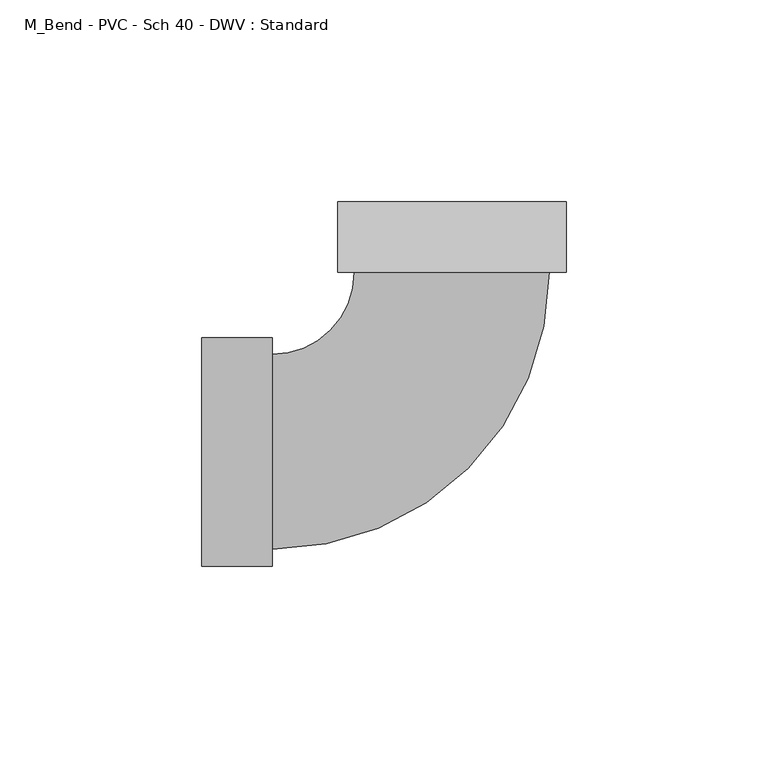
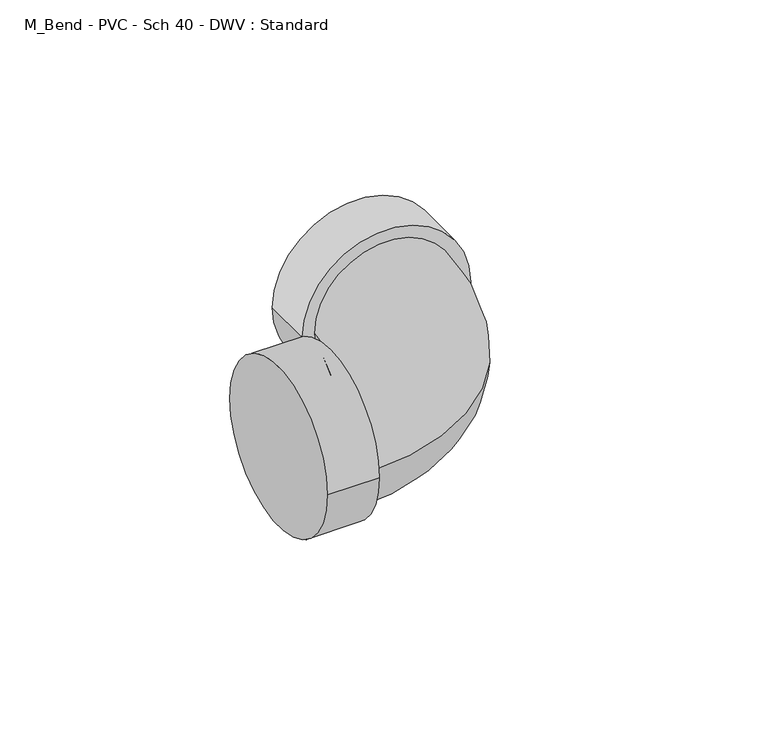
"""IFC4 building model written with IfcOpenShell, lengths in millimetres: pipe fitting geometry, M_Bend - PVC - Sch 40 - DWV : Standard."""

import ifcopenshell
import ifcopenshell.guid

model = None  # the IFC model being written
_history = None  # IfcOwnerHistory: only IFC2X3 demands one
_inside = {}  # id of a spatial element -> (the spatial element, [elements in it])
_under = {}  # id of a project, library or spatial element -> (it, [spatial elements below it])
_declared = {}  # id of a project -> (the project, [libraries it declares])
_typed = {}  # id of a type object -> (the type object, [elements of that type])
_made_of = {}  # id of a material, layer set ... -> (it, [elements and type objects made of it])


def new_model(schema):
    """Start an empty IFC model of exactly this schema.

    Asked for "IFC4X3", IfcOpenShell would pick the latest addendum, in which some entities
    have other attributes; the version numbers below select the first issue.
    IFC2X3 requires an IfcOwnerHistory on every rooted entity: one is made here for all.
    """
    global model, _history
    if schema == "IFC4X3":
        model = ifcopenshell.file(schema_version=(4, 3, 0, 0))
    else:
        model = ifcopenshell.file(schema=schema)
    _inside.clear()
    _under.clear()
    _declared.clear()
    _typed.clear()
    _made_of.clear()
    _history = None
    if model.schema == "IFC2X3":
        org = make("IfcOrganization", Name="unknown")
        user = make(
            "IfcPersonAndOrganization",
            ThePerson=make("IfcPerson", FamilyName="unknown"),
            TheOrganization=org,
        )
        app = make(
            "IfcApplication",
            ApplicationDeveloper=org,
            Version="unknown",
            ApplicationFullName="unknown",
            ApplicationIdentifier="unknown",
        )
        _history = make(
            "IfcOwnerHistory",
            OwningUser=user,
            OwningApplication=app,
            ChangeAction="ADDED",
            CreationDate=0,
        )
    return model


def make(cls, **values):
    """One entity of the class cls with the attributes given. An attribute that is None is left unset."""
    return model.create_entity(
        cls, **{name: value for name, value in values.items() if value is not None}
    )


def rooted(cls, **values):
    """An entity with a GlobalId (a new one), such as an element, a storey or a relation."""
    return make(cls, GlobalId=ifcopenshell.guid.new(), OwnerHistory=_history, **values)


def si_unit(unit_type, name, prefix=None):
    """IfcSIUnit, for example si_unit("LENGTHUNIT", "METRE", prefix="MILLI")."""
    return make("IfcSIUnit", UnitType=unit_type, Prefix=prefix, Name=name)


def assignment(units):
    """IfcUnitAssignment: the units of a project."""
    return None if units is None else make("IfcUnitAssignment", Units=units)


def point(xyz):
    """IfcCartesianPoint."""
    return None if xyz is None else make("IfcCartesianPoint", Coordinates=xyz)


def direction(xyz):
    """IfcDirection."""
    return None if xyz is None else make("IfcDirection", DirectionRatios=xyz)


def frame(location, z_axis=None, x_axis=None):
    """IfcAxis2Placement3D, a coordinate frame: its origin and axes. An axis left out is left unset."""
    return make(
        "IfcAxis2Placement3D",
        Location=point(location),
        Axis=direction(z_axis),
        RefDirection=direction(x_axis),
    )


def origin():
    """The frame at (0, 0, 0) with its axes left unset."""
    return frame((0.0, 0.0, 0.0))


def place(relative_to, where):
    """IfcLocalPlacement: puts the frame where relative to a parent placement (None: the world)."""
    return make(
        "IfcLocalPlacement", PlacementRelTo=relative_to, RelativePlacement=where
    )


def context(
    kind, dimensions, precision=None, world=None, true_north=None, identifier=None
):
    """IfcGeometricRepresentationContext, for example the 3D "Model" context."""
    return make(
        "IfcGeometricRepresentationContext",
        ContextIdentifier=identifier,
        ContextType=kind,
        CoordinateSpaceDimension=dimensions,
        Precision=precision,
        WorldCoordinateSystem=world,
        TrueNorth=true_north,
    )


def project(units=None, contexts=None):
    """IfcProject with its units and contexts."""
    return rooted(
        "IfcProject",
        Name="project",
        RepresentationContexts=contexts,
        UnitsInContext=assignment(units),
    )


def spatial(cls, under=None, at=None, **own):
    """A site, building, storey or space (cls), placed at a placement, below another one or the project."""
    s = rooted(cls, ObjectPlacement=at, **own)
    if under is not None:
        _under.setdefault(under.id(), (under, []))[1].append(s)
    return s


def circle_curve(where, radius):
    """IfcCircle in the frame where."""
    return make("IfcCircle", Position=where, Radius=radius)


def ellipse_curve(where, semi_axis1, semi_axis2):
    """IfcEllipse in the frame where."""
    return make(
        "IfcEllipse", Position=where, SemiAxis1=semi_axis1, SemiAxis2=semi_axis2
    )


def trimmed(basis, trim1, trim2, sense, master):
    """IfcTrimmedCurve: the piece of a basis curve between two trims."""
    return make(
        "IfcTrimmedCurve",
        BasisCurve=basis,
        Trim1=trim1,
        Trim2=trim2,
        SenseAgreement=sense,
        MasterRepresentation=master,
    )


def shape(context_of_items, identifier, shape_type, items):
    """IfcShapeRepresentation: the items that make up one representation, for example the "Body"."""
    return make(
        "IfcShapeRepresentation",
        ContextOfItems=context_of_items,
        RepresentationIdentifier=identifier,
        RepresentationType=shape_type,
        Items=items,
    )


def source(mapping_origin, context_of_items, identifier, shape_type, items):
    """IfcRepresentationMap: a shape defined once, which mapped items show again and again."""
    return make(
        "IfcRepresentationMap",
        MappingOrigin=mapping_origin,
        MappedRepresentation=shape(context_of_items, identifier, shape_type, items),
    )


def transform(
    local_origin,
    x_axis=None,
    y_axis=None,
    z_axis=None,
    scale=None,
    scale2=None,
    scale3=None,
    uniform=True,
):
    """IfcCartesianTransformationOperator3D, or its non-uniform kind. x_axis, y_axis, z_axis: its Axis1, 2, 3."""
    if uniform:
        return make(
            "IfcCartesianTransformationOperator3D",
            Axis1=direction(x_axis),
            Axis2=direction(y_axis),
            LocalOrigin=point(local_origin),
            Scale=scale,
            Axis3=direction(z_axis),
        )
    return make(
        "IfcCartesianTransformationOperator3DnonUniform",
        Axis1=direction(x_axis),
        Axis2=direction(y_axis),
        LocalOrigin=point(local_origin),
        Scale=scale,
        Axis3=direction(z_axis),
        Scale2=scale2,
        Scale3=scale3,
    )


def mapped(mapping_source, mapping_target):
    """IfcMappedItem: shows the shape of a source again, moved by a transform."""
    return make(
        "IfcMappedItem", MappingSource=mapping_source, MappingTarget=mapping_target
    )


def made_of(thing, what):
    """Note that an element or type object is made of a material, layer set ...; save() writes the relation."""
    if what is not None:
        _made_of.setdefault(what.id(), (what, []))[1].append(thing)
    return thing


def element(
    cls,
    number,
    at=None,
    inside=None,
    cuts=None,
    type_object=None,
    material=None,
    context=None,
    identifier="Body",
    shape_type=None,
    held_by="IfcProductDefinitionShape",
    body=None,
    shapes=None,
    **own,
):
    """One element of the class cls, such as IfcWall. Its Tag is "e" and its number.

    at: its placement. inside: the storey or other place that contains it. cuts: it is an
    opening in that element (IfcRelVoidsElement). A single representation is given by context,
    identifier, shape_type and body (its items); several are given by shapes. held_by: the class
    of the entity that holds the representations. save() writes the other relations.
    """
    e = rooted(cls, Tag="e%d" % number, ObjectPlacement=at, **own)
    if body is not None:
        shapes = [shape(context, identifier, shape_type, body)]
    if shapes is not None:
        e.Representation = make(held_by, Representations=shapes)
    if inside is not None:
        _inside.setdefault(inside.id(), (inside, []))[1].append(e)
    if cuts is not None:
        rooted(
            "IfcRelVoidsElement", RelatingBuildingElement=cuts, RelatedOpeningElement=e
        )
    if type_object is not None:
        _typed.setdefault(type_object.id(), (type_object, []))[1].append(e)
    return made_of(e, material)


def aggregate(whole, parts):
    """IfcRelAggregates: a whole, such as a stair, and the parts it consists of."""
    return rooted("IfcRelAggregates", RelatingObject=whole, RelatedObjects=parts)


def save(model, path):
    """Write the relations noted so far, then the file.

    IfcRelAggregates (storeys below a building ...), IfcRelContainedInSpatialStructure (elements
    in a storey), IfcRelDefinesByType, IfcRelAssociatesMaterial and IfcRelDeclares: one each for
    every whole, place, type object, material and project.
    """
    for whole, parts in _under.values():
        aggregate(whole, parts)
    for where, things in _inside.values():
        rooted(
            "IfcRelContainedInSpatialStructure",
            RelatedElements=things,
            RelatingStructure=where,
        )
    for kind, things in _typed.values():
        rooted("IfcRelDefinesByType", RelatedObjects=things, RelatingType=kind)
    for what, things in _made_of.values():
        rooted("IfcRelAssociatesMaterial", RelatedObjects=things, RelatingMaterial=what)
    for by, libraries in _declared.values():
        rooted("IfcRelDeclares", RelatingContext=by, RelatedDefinitions=libraries)
    model.write(path)


def plane_surface(at):
    """IfcPlane: the flat surface through the origin of the frame at, square to its z axis."""
    return make("IfcPlane", Position=at)


def cylinder_surface(at, radius):
    """IfcCylindricalSurface: all points at the distance radius from the z axis of the frame at."""
    return make("IfcCylindricalSurface", Position=at, Radius=radius)


def revolved_surface(curve, axis_point, axis_direction):
    """IfcSurfaceOfRevolution: the curve turned about the line through axis_point along axis_direction."""
    return make(
        "IfcSurfaceOfRevolution",
        SweptCurve=make("IfcArbitraryOpenProfileDef", ProfileType="CURVE", Curve=curve),
        AxisPosition=make("IfcAxis1Placement", Location=point(axis_point), Axis=direction(axis_direction)),
    )


def advanced_brep(points, edges, surfaces, faces):
    """IfcAdvancedBrep: a solid bounded by faces that lie on surfaces and meet in shared edges.

    An edge is (start, end): straight between two places in points (the first is 0);
    or (start, end, curve); or (start, end, curve, False) where it runs against its curve.
    A face is (place in surfaces, loops), or (place, loops, False) where it looks against
    its surface's normal. A loop lists edges by number (the first is 1), with a minus sign
    where the edge is run from its end to its start. The first loop is the outer one.
    """
    corners = [point(p) for p in points]
    vertices = [make("IfcVertexPoint", VertexGeometry=c) for c in corners]
    made = []
    for start, end, *more in edges:
        made.append(
            make(
                "IfcEdgeCurve",
                EdgeStart=vertices[start],
                EdgeEnd=vertices[end],
                EdgeGeometry=more[0] if more else make("IfcPolyline", Points=[corners[start], corners[end]]),
                SameSense=more[1] if len(more) > 1 else True,
            )
        )
    hull = []
    for where, loops, *sense in faces:
        bounds = []
        for j, loop in enumerate(loops):
            ring = [make("IfcOrientedEdge", EdgeElement=made[abs(k) - 1], Orientation=k > 0) for k in loop]
            bounds.append(
                make(
                    "IfcFaceOuterBound" if j == 0 else "IfcFaceBound",
                    Bound=make("IfcEdgeLoop", EdgeList=ring),
                    Orientation=True,
                )
            )
        hull.append(make("IfcAdvancedFace", Bounds=bounds, FaceSurface=surfaces[where], SameSense=sense[0] if sense else True))
    return make("IfcAdvancedBrep", Outer=make("IfcClosedShell", CfsFaces=hull))


def m_bend_pvc_sch_40_dwv_standard_88f2c54c(model_context):
    return source(origin(), model_context, "Body", "AdvancedBrep", [
        advanced_brep(
        [(-61.8998, -28.2829, 0.0), (-61.8998, 28.2829, 0.0), (-44.45, -28.2829, 0.0), (-44.45, 28.2829, 0.0), (-44.45, -24.13, 0.0), (-44.45, 24.13, 0.0), (-24.1305559, 44.4496982, 0.0), (24.1294441, 44.4503018, 0.0), (28.2823441, 44.4503537, 0.0), (-28.2834559, 44.4496463, 0.0), (28.2821259, 61.9001537, 0.0), (-28.2836741, 61.8994463, 0.0)],
        [
            (0, 1, circle_curve(frame((-61.8998, 0.0, 0.0), z_axis=(-1.0, 0.0, 0.0), x_axis=(0.0, 1.0, 0.0)), 28.2829)),
            (1, 0, circle_curve(frame((-61.8998, 0.0, 0.0), z_axis=(-1.0, 0.0, 0.0), x_axis=(0.0, 1.0, 0.0)), 28.2829)),
            (2, 3, circle_curve(frame((-44.45, 0.0, 0.0), z_axis=(1.0, 0.0, 0.0), x_axis=(0.0, 1.0, 0.0)), 28.2829)),
            (3, 2, circle_curve(frame((-44.45, 0.0, 0.0), z_axis=(1.0, 0.0, 0.0), x_axis=(0.0, 1.0, 0.0)), 28.2829)),
            (4, 5, circle_curve(frame((-44.45, 0.0, 0.0), z_axis=(-1.0, 0.0, 0.0), x_axis=(0.0, 1.0, 0.0)), 24.13)),
            (5, 4, circle_curve(frame((-44.45, 0.0, 0.0), z_axis=(-1.0, 0.0, 0.0), x_axis=(0.0, 1.0, 0.0)), 24.13)),
            (0, 2),
            (3, 1),
            (6, 5, circle_curve(frame((-44.45, 44.4494441, 0.0), z_axis=(0.0, 0.0, -1.0), x_axis=(0.0, -1.0, 0.0)), 20.3194441)),
            (4, 7, circle_curve(frame((-44.45, 44.4494441, 0.0), z_axis=(0.0, 0.0, 1.0), x_axis=(0.0, -1.0, 0.0)), 68.5794441)),
            (7, 6, circle_curve(frame((-0.0005559, 44.45, 0.0), z_axis=(1.2505625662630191e-05, -0.9999999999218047, 0.0), x_axis=(-0.9999999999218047, -1.2505625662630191e-05, 0.0)), 24.13)),
            (6, 7, circle_curve(frame((-0.0005559, 44.45, 0.0), z_axis=(1.2505625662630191e-05, -0.9999999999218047, 0.0), x_axis=(-0.9999999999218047, -1.2505625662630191e-05, 0.0)), 24.13)),
            (8, 9, circle_curve(frame((-0.0005559, 44.45, 0.0), z_axis=(1.2505625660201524e-05, -0.9999999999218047, 0.0), x_axis=(-0.9999999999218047, -1.2505625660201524e-05, 0.0)), 28.2829)),
            (9, 8, circle_curve(frame((-0.0005559, 44.45, 0.0), z_axis=(1.2505625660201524e-05, -0.9999999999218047, 0.0), x_axis=(-0.9999999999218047, -1.2505625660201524e-05, 0.0)), 28.2829)),
            (10, 11, circle_curve(frame((-0.0007741, 61.8998, 0.0), z_axis=(-1.2505625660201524e-05, 0.9999999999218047, 0.0), x_axis=(-0.9999999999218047, -1.2505625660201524e-05, 0.0)), 28.2829)),
            (11, 10, circle_curve(frame((-0.0007741, 61.8998, 0.0), z_axis=(-1.2505625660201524e-05, 0.9999999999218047, 0.0), x_axis=(-0.9999999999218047, -1.2505625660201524e-05, 0.0)), 28.2829)),
            (8, 10),
            (11, 9),
        ],
        [
            plane_surface(frame((-61.8998, 0.0, 0.0), z_axis=(-1.0, 0.0, 0.0), x_axis=(0.0, 0.0, 1.0))),
            plane_surface(frame((-44.45, 0.0, 0.0), z_axis=(1.0, 0.0, 0.0), x_axis=(0.0, 0.0, 1.0))),
            cylinder_surface(frame((-61.8998, 0.0, 0.0), z_axis=(-1.0, 0.0, 0.0), x_axis=(0.0, 1.0, 0.0)), 28.2829),
            revolved_surface(trimmed(ellipse_curve(frame((-44.45, 0.0, 0.0), z_axis=(-1.0, 0.0, 0.0), x_axis=(0.0, 1.0, 0.0)), 24.13, 24.13), [point((-44.45, -24.13, 0.0))], [point((-44.45, 24.13, 0.0))], True, "CARTESIAN"), (-44.45, 44.4494441, 0.0), (0.0, 0.0, 1.0)),
            revolved_surface(trimmed(ellipse_curve(frame((-44.45, 0.0, 0.0), z_axis=(-1.0, 0.0, 0.0), x_axis=(0.0, 1.0, 0.0)), 24.13, 24.13), [point((-44.45, 24.13, 0.0))], [point((-44.45, -24.13, 0.0))], True, "CARTESIAN"), (-44.45, 44.4494441, 0.0), (0.0, 0.0, 1.0)),
            plane_surface(frame((-0.0005559, 44.45, 0.0), z_axis=(1.2505625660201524e-05, -0.9999999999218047, 0.0), x_axis=(0.0, 0.0, 1.0))),
            plane_surface(frame((-0.0007741, 61.8998, 0.0), z_axis=(-1.2505625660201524e-05, 0.9999999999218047, 0.0), x_axis=(0.0, 0.0, 1.0))),
            cylinder_surface(frame((-0.0005559, 44.45, 0.0), z_axis=(1.2505625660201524e-05, -0.9999999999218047, 0.0), x_axis=(-0.9999999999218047, -1.2505625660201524e-05, 0.0)), 28.2829),
        ],
        [
            (0, [[1, 2]]),
            (1, [[3, 4], [5, 6]]),
            (2, [[-1, 7, -4, 8]]),
            (2, [[-2, -8, -3, -7]]),
            (3, [[9, -5, 10, 11]]),
            (4, [[-9, 12, -10, -6]]),
            (5, [[13, 14], [-11, -12]]),
            (6, [[15, 16]]),
            (7, [[-13, 17, -16, 18]]),
            (7, [[-14, -18, -15, -17]]),
        ],
    ),
    ])


if __name__ == "__main__":
    model = new_model("IFC4")
    model_context = context("Model", 3, world=origin())
    ifc_project = project(units=[si_unit("LENGTHUNIT", "METRE", prefix="MILLI")], contexts=[model_context])
    site = spatial("IfcSite", under=ifc_project)
    building = spatial("IfcBuilding", under=site)
    placement = place(None, origin())
    m_bend_pvc_sch_40_dwv_standard_shape = m_bend_pvc_sch_40_dwv_standard_88f2c54c(model_context)
    element("IfcPipeFitting", 1, ObjectType="M_Bend - PVC - Sch 40 - DWV : Standard", at=placement, inside=building, context=model_context, shape_type="MappedRepresentation", body=[
        mapped(m_bend_pvc_sch_40_dwv_standard_shape, transform((0.0, 0.0, 0.0), x_axis=(1.0, 0.0, 0.0), y_axis=(0.0, 1.0, 0.0), z_axis=(0.0, 0.0, 1.0))),
    ])
    save(model, "model.ifc")
